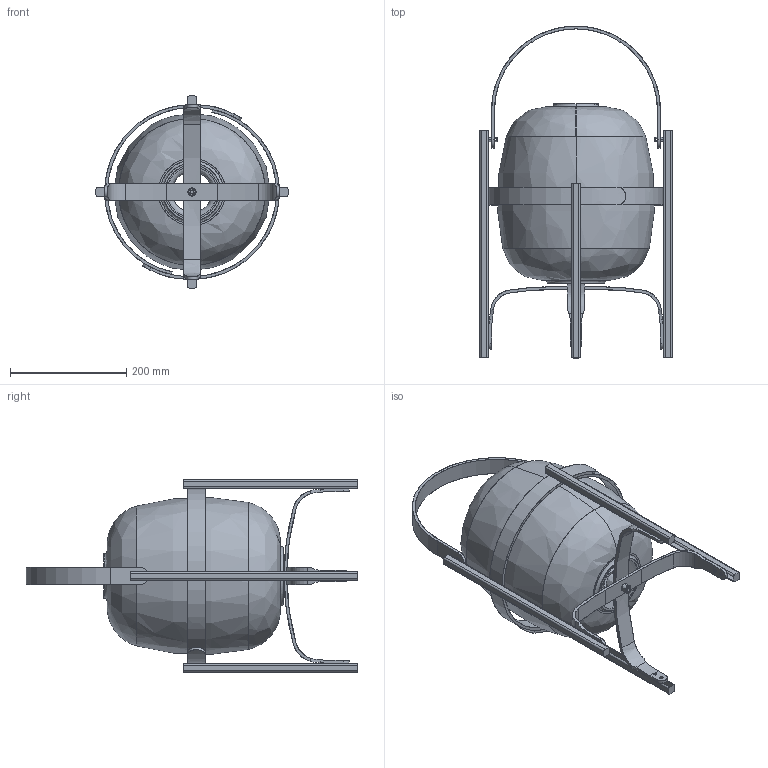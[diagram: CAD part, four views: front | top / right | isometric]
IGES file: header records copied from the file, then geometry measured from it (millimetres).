
Start section: SolidWorks IGES file using analytic representation for surfaces
Global section: file name: C:\Users\marc.torres\Desktop\Pujar a web\CESTA_3D.IGS; native system: SolidWorks 2015; preprocessor: SolidWorks 2015; author: marc.torres; date: 151216.172514; units: millimetre
Bounding box: 330 x 570 x 330 mm (x, y, z)
Surface area: 677695.3 mm2 (no closed solid volume)
Topology: 0 solids, 0 shells, 176 faces, 4230 edges, 4230 vertices
Faces by surface type: bspline 92, revolution 84
